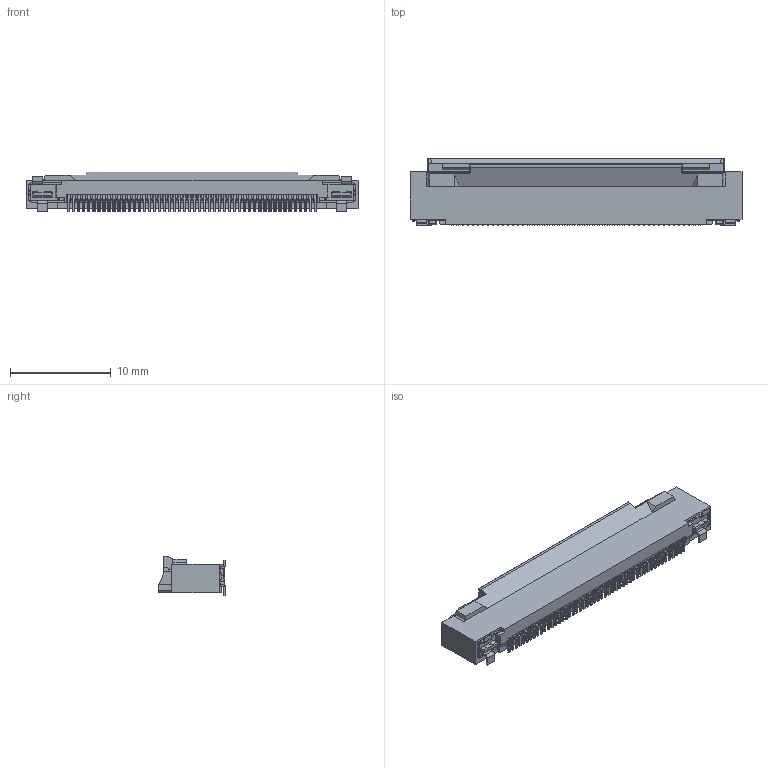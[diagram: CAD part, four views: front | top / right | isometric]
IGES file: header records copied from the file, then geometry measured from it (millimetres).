
Start section: SolidWorks IGES file using analytic representation for surfaces
Global section: file name: C:\Users\ieng2-006\Desktop\WORKING\nakamura\GVT 3D儌僨儖嶌惉\GVT IGES\20799-050E-01 IGES R6 ALL.IGS; native system: SolidWorks 2017; preprocessor: SolidWorks 2017; author: ieng2-006; date: 190328.163532; units: millimetre
Bounding box: 33 x 6.6 x 3.9 mm (x, y, z)
Surface area: 780.5 mm2 (no closed solid volume)
Topology: 0 solids, 0 shells, 1419 faces, 8659 edges, 8659 vertices
Faces by surface type: bspline 1184, revolution 235
